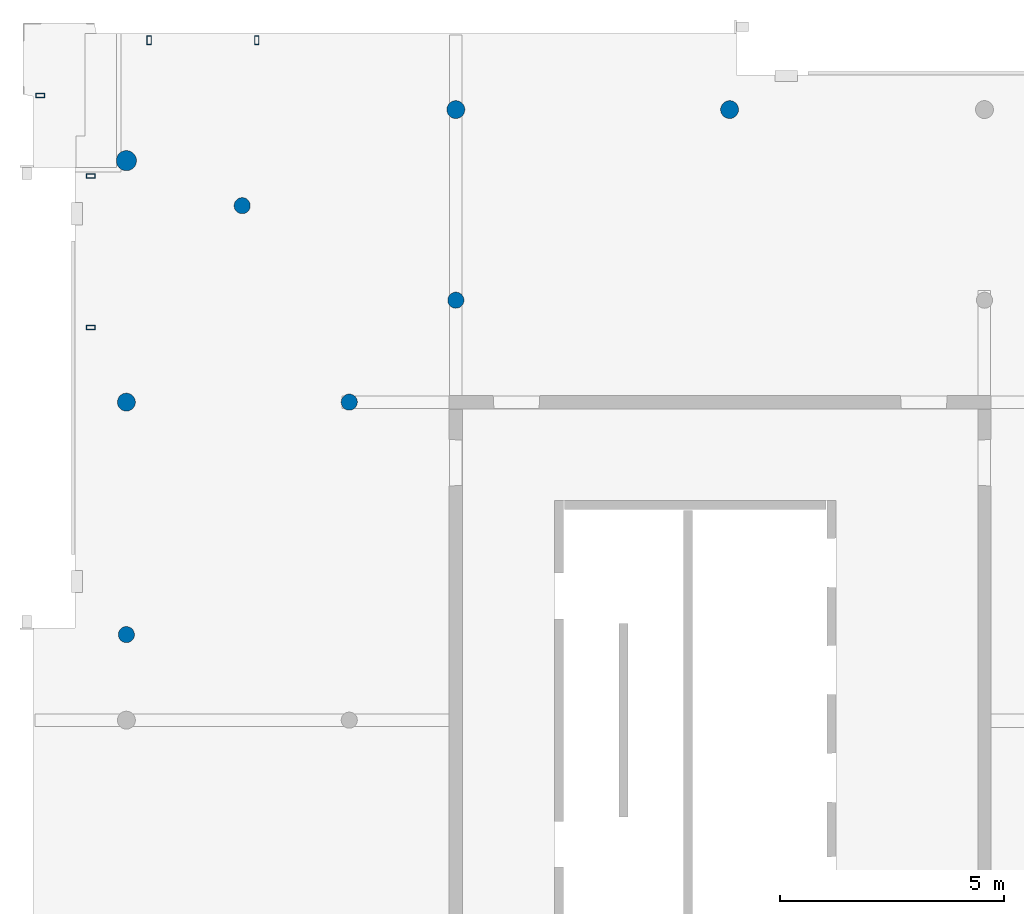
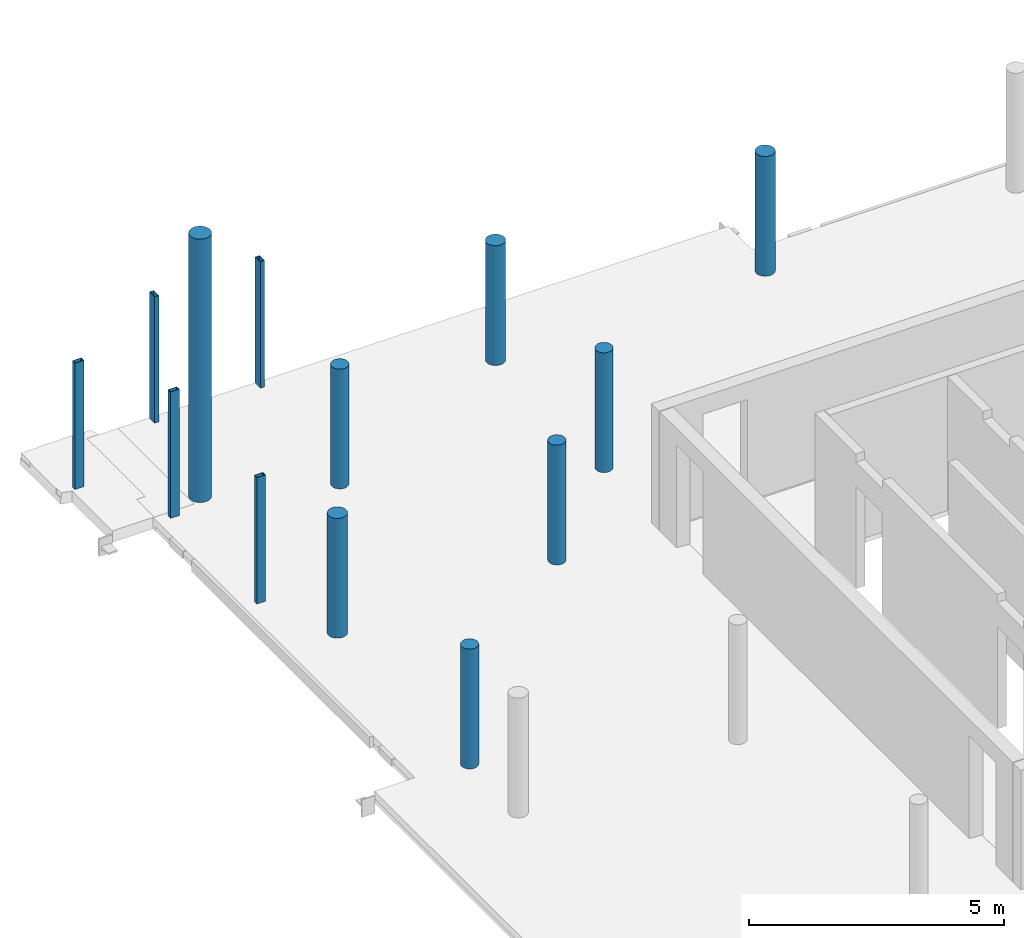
# One storey, part 3 of 7: 13 columns.
"""IFC2X3 building model written with IfcOpenShell, lengths in millimetres."""

import ifcopenshell
import ifcopenshell.guid

model = None  # the IFC model being written
_history = None  # IfcOwnerHistory: only IFC2X3 demands one
_inside = {}  # id of a spatial element -> (the spatial element, [elements in it])
_under = {}  # id of a project, library or spatial element -> (it, [spatial elements below it])
_declared = {}  # id of a project -> (the project, [libraries it declares])
_typed = {}  # id of a type object -> (the type object, [elements of that type])
_made_of = {}  # id of a material, layer set ... -> (it, [elements and type objects made of it])


def new_model(schema):
    """Start an empty IFC model of exactly this schema.

    Asked for "IFC4X3", IfcOpenShell would pick the latest addendum, in which some entities
    have other attributes; the version numbers below select the first issue.
    IFC2X3 requires an IfcOwnerHistory on every rooted entity: one is made here for all.
    """
    global model, _history
    if schema == "IFC4X3":
        model = ifcopenshell.file(schema_version=(4, 3, 0, 0))
    else:
        model = ifcopenshell.file(schema=schema)
    _inside.clear()
    _under.clear()
    _declared.clear()
    _typed.clear()
    _made_of.clear()
    _history = None
    if model.schema == "IFC2X3":
        org = make("IfcOrganization", Name="unknown")
        user = make(
            "IfcPersonAndOrganization",
            ThePerson=make("IfcPerson", FamilyName="unknown"),
            TheOrganization=org,
        )
        app = make(
            "IfcApplication",
            ApplicationDeveloper=org,
            Version="unknown",
            ApplicationFullName="unknown",
            ApplicationIdentifier="unknown",
        )
        _history = make(
            "IfcOwnerHistory",
            OwningUser=user,
            OwningApplication=app,
            ChangeAction="ADDED",
            CreationDate=0,
        )
    return model


def make(cls, **values):
    """One entity of the class cls with the attributes given. An attribute that is None is left unset."""
    return model.create_entity(
        cls, **{name: value for name, value in values.items() if value is not None}
    )


def entity(cls, *values):
    """Any entity or typed value of the class cls, its attributes in the order of the schema. None: left unset."""
    e = model.create_entity(cls)
    for i, value in enumerate(values):
        if value is not None:
            e[i] = value
    return e


def rooted(cls, **values):
    """An entity with a GlobalId (a new one), such as an element, a storey or a relation."""
    return make(cls, GlobalId=ifcopenshell.guid.new(), OwnerHistory=_history, **values)


def si_unit(unit_type, name, prefix=None):
    """IfcSIUnit, for example si_unit("LENGTHUNIT", "METRE", prefix="MILLI")."""
    return make("IfcSIUnit", UnitType=unit_type, Prefix=prefix, Name=name)


def converted_unit(unit_type, name, factor, base, dimensions=None, offset=None):
    """IfcConversionBasedUnit, such as the inch: factor (a typed value) times the base unit."""
    return make(
        "IfcConversionBasedUnit"
        if offset is None
        else "IfcConversionBasedUnitWithOffset",
        ConversionOffset=offset,
        Dimensions=None
        if dimensions is None
        else entity("IfcDimensionalExponents", *dimensions),
        UnitType=unit_type,
        Name=name,
        ConversionFactor=make(
            "IfcMeasureWithUnit", ValueComponent=factor, UnitComponent=base
        ),
    )


def derived_unit(unit_type, elements):
    """IfcDerivedUnit: a product of units, each with its exponent."""
    return make(
        "IfcDerivedUnit",
        Elements=[
            make("IfcDerivedUnitElement", Unit=unit, Exponent=power)
            for unit, power in elements
        ],
        UnitType=unit_type,
    )


def assignment(units):
    """IfcUnitAssignment: the units of a project."""
    return None if units is None else make("IfcUnitAssignment", Units=units)


def point(xyz):
    """IfcCartesianPoint."""
    return None if xyz is None else make("IfcCartesianPoint", Coordinates=xyz)


def direction(xyz):
    """IfcDirection."""
    return None if xyz is None else make("IfcDirection", DirectionRatios=xyz)


def frame(location, z_axis=None, x_axis=None):
    """IfcAxis2Placement3D, a coordinate frame: its origin and axes. An axis left out is left unset."""
    return make(
        "IfcAxis2Placement3D",
        Location=point(location),
        Axis=direction(z_axis),
        RefDirection=direction(x_axis),
    )


def frame_2d(location, x_axis=None):
    """IfcAxis2Placement2D, a coordinate frame in the plane: its origin and x axis."""
    return make(
        "IfcAxis2Placement2D", Location=point(location), RefDirection=direction(x_axis)
    )


def origin():
    """The frame at (0, 0, 0) with its axes left unset."""
    return frame((0.0, 0.0, 0.0))


def origin_2d_with_axis():
    """The frame at (0, 0) in the plane with the x axis (1, 0) written out."""
    return frame_2d((0.0, 0.0), x_axis=(1.0, 0.0))


def place(relative_to, where):
    """IfcLocalPlacement: puts the frame where relative to a parent placement (None: the world)."""
    return make(
        "IfcLocalPlacement", PlacementRelTo=relative_to, RelativePlacement=where
    )


def context(
    kind, dimensions, precision=None, world=None, true_north=None, identifier=None
):
    """IfcGeometricRepresentationContext, for example the 3D "Model" context."""
    return make(
        "IfcGeometricRepresentationContext",
        ContextIdentifier=identifier,
        ContextType=kind,
        CoordinateSpaceDimension=dimensions,
        Precision=precision,
        WorldCoordinateSystem=world,
        TrueNorth=true_north,
    )


def subcontext(parent, identifier, kind, view, scale=None):
    """IfcGeometricRepresentationSubContext, for example "Body" below "Model"."""
    return make(
        "IfcGeometricRepresentationSubContext",
        ContextIdentifier=identifier,
        ContextType=kind,
        ParentContext=parent,
        TargetScale=scale,
        TargetView=view,
    )


def project(units=None, contexts=None):
    """IfcProject with its units and contexts."""
    return rooted(
        "IfcProject",
        Name="project",
        RepresentationContexts=contexts,
        UnitsInContext=assignment(units),
    )


def spatial(cls, under=None, at=None, **own):
    """A site, building, storey or space (cls), placed at a placement, below another one or the project."""
    s = rooted(cls, ObjectPlacement=at, **own)
    if under is not None:
        _under.setdefault(under.id(), (under, []))[1].append(s)
    return s


def polyline(points):
    """IfcPolyline through the points."""
    return make("IfcPolyline", Points=[point(p) for p in points])


def circle_curve(where, radius):
    """IfcCircle in the frame where."""
    return make("IfcCircle", Position=where, Radius=radius)


def parameter(value):
    """IfcParameterValue: where a trimmed curve begins or ends, as a parameter of its basis curve."""
    return model.create_entity("IfcParameterValue", value)


def trimmed(basis, trim1, trim2, sense, master):
    """IfcTrimmedCurve: the piece of a basis curve between two trims."""
    return make(
        "IfcTrimmedCurve",
        BasisCurve=basis,
        Trim1=trim1,
        Trim2=trim2,
        SenseAgreement=sense,
        MasterRepresentation=master,
    )


def segment(curve, same_sense, transition):
    """IfcCompositeCurveSegment."""
    return make(
        "IfcCompositeCurveSegment",
        Transition=transition,
        SameSense=same_sense,
        ParentCurve=curve,
    )


def composite_curve(segments, self_intersect=None):
    """IfcCompositeCurve: segments joined end to end."""
    return make("IfcCompositeCurve", Segments=segments, SelfIntersect=self_intersect)


def profile(cls, at=None, kind="AREA", **sizes):
    """A parametric profile (cls). Its sizes go by their IFC names, for example OverallWidth=200.0."""
    return make(cls, ProfileType=kind, Position=at, **sizes)


def circle(**sizes):
    """IfcCircleProfileDef."""
    return profile("IfcCircleProfileDef", **sizes)


def outline(outer, holes=None, kind="AREA"):
    """IfcArbitraryClosedProfileDef: a profile drawn as a closed curve; with holes, ...WithVoids."""
    if holes is None:
        return make("IfcArbitraryClosedProfileDef", ProfileType=kind, OuterCurve=outer)
    return make(
        "IfcArbitraryProfileDefWithVoids",
        ProfileType=kind,
        OuterCurve=outer,
        InnerCurves=holes,
    )


def extrude(swept, where, along, depth):
    """IfcExtrudedAreaSolid: the profile swept, set in the frame where, extruded along a direction by depth."""
    return make(
        "IfcExtrudedAreaSolid",
        SweptArea=swept,
        Position=where,
        ExtrudedDirection=direction(along),
        Depth=depth,
    )


def shape(context_of_items, identifier, shape_type, items):
    """IfcShapeRepresentation: the items that make up one representation, for example the "Body"."""
    return make(
        "IfcShapeRepresentation",
        ContextOfItems=context_of_items,
        RepresentationIdentifier=identifier,
        RepresentationType=shape_type,
        Items=items,
    )


def source(mapping_origin, context_of_items, identifier, shape_type, items):
    """IfcRepresentationMap: a shape defined once, which mapped items show again and again."""
    return make(
        "IfcRepresentationMap",
        MappingOrigin=mapping_origin,
        MappedRepresentation=shape(context_of_items, identifier, shape_type, items),
    )


def transform(
    local_origin,
    x_axis=None,
    y_axis=None,
    z_axis=None,
    scale=None,
    scale2=None,
    scale3=None,
    uniform=True,
):
    """IfcCartesianTransformationOperator3D, or its non-uniform kind. x_axis, y_axis, z_axis: its Axis1, 2, 3."""
    if uniform:
        return make(
            "IfcCartesianTransformationOperator3D",
            Axis1=direction(x_axis),
            Axis2=direction(y_axis),
            LocalOrigin=point(local_origin),
            Scale=scale,
            Axis3=direction(z_axis),
        )
    return make(
        "IfcCartesianTransformationOperator3DnonUniform",
        Axis1=direction(x_axis),
        Axis2=direction(y_axis),
        LocalOrigin=point(local_origin),
        Scale=scale,
        Axis3=direction(z_axis),
        Scale2=scale2,
        Scale3=scale3,
    )


def mapped(mapping_source, mapping_target):
    """IfcMappedItem: shows the shape of a source again, moved by a transform."""
    return make(
        "IfcMappedItem", MappingSource=mapping_source, MappingTarget=mapping_target
    )


def material(Name=None, Category=None):
    """IfcMaterial."""
    return make("IfcMaterial", Name=Name, Category=Category)


def made_of(thing, what):
    """Note that an element or type object is made of a material, layer set ...; save() writes the relation."""
    if what is not None:
        _made_of.setdefault(what.id(), (what, []))[1].append(thing)
    return thing


def type_object(cls, material=None, **own):
    """A type object (cls), such as IfcWallType, which elements share."""
    return made_of(rooted(cls, **own), material)


def type_shapes(of_type, sources):
    """Give a type object the sources (RepresentationMaps) that its elements show as mapped items."""
    of_type.RepresentationMaps = sources


def element(
    cls,
    number,
    at=None,
    inside=None,
    cuts=None,
    type_object=None,
    material=None,
    context=None,
    identifier="Body",
    shape_type=None,
    held_by="IfcProductDefinitionShape",
    body=None,
    shapes=None,
    **own,
):
    """One element of the class cls, such as IfcWall. Its Tag is "e" and its number.

    at: its placement. inside: the storey or other place that contains it. cuts: it is an
    opening in that element (IfcRelVoidsElement). A single representation is given by context,
    identifier, shape_type and body (its items); several are given by shapes. held_by: the class
    of the entity that holds the representations. save() writes the other relations.
    """
    e = rooted(cls, Tag="e%d" % number, ObjectPlacement=at, **own)
    if body is not None:
        shapes = [shape(context, identifier, shape_type, body)]
    if shapes is not None:
        e.Representation = make(held_by, Representations=shapes)
    if inside is not None:
        _inside.setdefault(inside.id(), (inside, []))[1].append(e)
    if cuts is not None:
        rooted(
            "IfcRelVoidsElement", RelatingBuildingElement=cuts, RelatedOpeningElement=e
        )
    if type_object is not None:
        _typed.setdefault(type_object.id(), (type_object, []))[1].append(e)
    return made_of(e, material)


def aggregate(whole, parts):
    """IfcRelAggregates: a whole, such as a stair, and the parts it consists of."""
    return rooted("IfcRelAggregates", RelatingObject=whole, RelatedObjects=parts)


def save(model, path):
    """Write the relations noted so far, then the file.

    IfcRelAggregates (storeys below a building ...), IfcRelContainedInSpatialStructure (elements
    in a storey), IfcRelDefinesByType, IfcRelAssociatesMaterial and IfcRelDeclares: one each for
    every whole, place, type object, material and project.
    """
    for whole, parts in _under.values():
        aggregate(whole, parts)
    for where, things in _inside.values():
        rooted(
            "IfcRelContainedInSpatialStructure",
            RelatedElements=things,
            RelatingStructure=where,
        )
    for kind, things in _typed.values():
        rooted("IfcRelDefinesByType", RelatedObjects=things, RelatingType=kind)
    for what, things in _made_of.values():
        rooted("IfcRelAssociatesMaterial", RelatedObjects=things, RelatingMaterial=what)
    for by, libraries in _declared.values():
        rooted("IfcRelDeclares", RelatingContext=by, RelatedDefinitions=libraries)
    model.write(path)


model = new_model("IFC2X3")

# Units and contexts
model_context = context("Model", 3, precision=0.01, world=origin(), true_north=direction((6.12303176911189e-17, 1.0)))
body_context = subcontext(model_context, "Body", "Model", "MODEL_VIEW")
ifc_project = project(units=[si_unit("LENGTHUNIT", "METRE", prefix="MILLI"), si_unit("AREAUNIT", "SQUARE_METRE"), si_unit("VOLUMEUNIT", "CUBIC_METRE"), converted_unit("PLANEANGLEUNIT", "DEGREE", entity("IfcRatioMeasure", 0.0174532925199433), si_unit("PLANEANGLEUNIT", "RADIAN"), dimensions=[0, 0, 0, 0, 0, 0, 0]), si_unit("MASSUNIT", "GRAM", prefix="KILO"), derived_unit("MASSDENSITYUNIT", [(si_unit("MASSUNIT", "GRAM", prefix="KILO"), 1), (si_unit("LENGTHUNIT", "METRE"), -3)]), si_unit("TIMEUNIT", "SECOND"), si_unit("FREQUENCYUNIT", "HERTZ"), si_unit("THERMODYNAMICTEMPERATUREUNIT", "DEGREE_CELSIUS"), derived_unit("THERMALTRANSMITTANCEUNIT", [(si_unit("MASSUNIT", "GRAM", prefix="KILO"), 1), (si_unit("THERMODYNAMICTEMPERATUREUNIT", "KELVIN"), -1), (si_unit("TIMEUNIT", "SECOND"), -3)]), derived_unit("VOLUMETRICFLOWRATEUNIT", [(si_unit("LENGTHUNIT", "METRE"), 3), (si_unit("TIMEUNIT", "SECOND"), -1)]), si_unit("ELECTRICCURRENTUNIT", "AMPERE"), si_unit("ELECTRICVOLTAGEUNIT", "VOLT"), si_unit("POWERUNIT", "WATT"), si_unit("FORCEUNIT", "NEWTON", prefix="KILO"), si_unit("ILLUMINANCEUNIT", "LUX"), si_unit("LUMINOUSFLUXUNIT", "LUMEN"), si_unit("LUMINOUSINTENSITYUNIT", "CANDELA"), derived_unit("USERDEFINED", [(si_unit("MASSUNIT", "GRAM", prefix="KILO"), -1), (si_unit("LENGTHUNIT", "METRE"), -2), (si_unit("TIMEUNIT", "SECOND"), 3), (si_unit("LUMINOUSFLUXUNIT", "LUMEN"), 1)]), derived_unit("LINEARVELOCITYUNIT", [(si_unit("LENGTHUNIT", "METRE"), 1), (si_unit("TIMEUNIT", "SECOND"), -1)]), si_unit("PRESSUREUNIT", "PASCAL"), derived_unit("USERDEFINED", [(si_unit("LENGTHUNIT", "METRE"), -2), (si_unit("MASSUNIT", "GRAM", prefix="KILO"), 1), (si_unit("TIMEUNIT", "SECOND"), -2)])], contexts=[model_context])

# Site, building, storey
site_placement = place(None, origin())
site = spatial("IfcSite", under=ifc_project, at=site_placement, Name="Default", CompositionType="ELEMENT")
building_placement = place(site_placement, origin())
building = spatial("IfcBuilding", under=site, at=building_placement, Name="niet gebruiken", CompositionType="ELEMENT")
storey_placement = place(building_placement, frame((0.0, 0.0, 165060.0)))
storey = spatial("IfcBuildingStorey", under=building, at=storey_placement, Name="53 drieënvijftigste verdieping", CompositionType="ELEMENT", Elevation=165060.0)

# Columns
ifc_material_1 = material(Name="NLRS_f2_beton prefab")
column_type_1 = type_object("IfcColumnType", Name="ø400", PredefinedType="COLUMN", material=ifc_material_1)
shared_shape_1 = source(origin(), body_context, "Body", "SweptSolid", [
    extrude(circle(Radius=199.999999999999, at=origin_2d_with_axis()), frame((128495.0, 24600.0, 164990.0), z_axis=(0.0, 0.0, 1.0), x_axis=(0.0, -1.0, 0.0)), (0.0, 0.0, 1.0), 2869.99999999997),
])
type_shapes(column_type_1, [shared_shape_1])
column_1_placement = place(storey_placement, frame((0.0, 0.0, -165060.0)))
element("IfcColumn", 1, at=column_1_placement, inside=storey, type_object=column_type_1, material=ifc_material_1, Name="NLRS_28. kolom rond_gen:ø400", ObjectType="ø400", context=body_context, shape_type="MappedRepresentation", body=[
    mapped(shared_shape_1, transform((0.0, 0.0, 0.0), scale=1.0)),
])
column_type_2 = type_object("IfcColumnType", Name="ø450", PredefinedType="COLUMN", material=ifc_material_1)
shared_shape_2 = source(origin(), body_context, "Body", "SweptSolid", [
    extrude(circle(Radius=225.0, at=origin_2d_with_axis()), frame((128495.0, 29990.0, 164990.0), z_axis=(0.0, 0.0, 1.0), x_axis=(0.0, -1.0, 0.0)), (0.0, 0.0, 1.0), 6309.99999999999),
])
type_shapes(column_type_2, [shared_shape_2])
column_2_placement = place(storey_placement, frame((0.0, 0.0, -165060.0)))
element("IfcColumn", 2, at=column_2_placement, inside=storey, type_object=column_type_2, material=ifc_material_1, Name="NLRS_28. kolom rond_gen:ø450", ObjectType="ø450", context=body_context, shape_type="MappedRepresentation", body=[
    mapped(shared_shape_2, transform((0.0, 0.0, 0.0), scale=1.0)),
])
column_type_3 = type_object("IfcColumnType", Name="ø360", PredefinedType="COLUMN", material=ifc_material_1)
shared_shape_3 = source(origin(), body_context, "Body", "SweptSolid", [
    extrude(circle(Radius=179.999999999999, at=origin_2d_with_axis()), frame((131080.0, 28985.0, 164990.0), z_axis=(0.0, 0.0, 1.0), x_axis=(0.0, -1.0, 0.0)), (0.0, 0.0, 1.0), 2869.99999999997),
])
type_shapes(column_type_3, [shared_shape_3])
column_3_placement = place(storey_placement, frame((0.0, 0.0, -165060.0)))
element("IfcColumn", 3, at=column_3_placement, inside=storey, type_object=column_type_3, material=ifc_material_1, Name="NLRS_28. kolom rond_gen:ø360", ObjectType="ø360", context=body_context, shape_type="MappedRepresentation", body=[
    mapped(shared_shape_3, transform((0.0, 0.0, 0.0), scale=1.0)),
])
column_type_4 = type_object("IfcColumnType", Name="ø400", PredefinedType="COLUMN", material=ifc_material_1)
shared_shape_4 = source(origin(), body_context, "Body", "SweptSolid", [
    extrude(circle(Radius=200.000000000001, at=origin_2d_with_axis()), frame((135850.0, 31130.0, 164990.0), z_axis=(0.0, 0.0, 1.0), x_axis=(0.0, -1.0, 0.0)), (0.0, 0.0, 1.0), 2869.99999999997),
])
type_shapes(column_type_4, [shared_shape_4])
column_4_placement = place(storey_placement, frame((0.0, 0.0, -165060.0)))
element("IfcColumn", 4, at=column_4_placement, inside=storey, type_object=column_type_4, material=ifc_material_1, Name="NLRS_28. kolom rond_gen:ø400", ObjectType="ø400", context=body_context, shape_type="MappedRepresentation", body=[
    mapped(shared_shape_4, transform((0.0, 0.0, 0.0), scale=1.0)),
])
column_type_5 = type_object("IfcColumnType", Name="ø400", PredefinedType="COLUMN", material=ifc_material_1)
shared_shape_5 = source(origin(), body_context, "Body", "SweptSolid", [
    extrude(circle(Radius=199.999999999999, at=origin_2d_with_axis()), frame((141960.0, 31130.0, 164990.0), z_axis=(0.0, 0.0, 1.0), x_axis=(0.0, -1.0, 0.0)), (0.0, 0.0, 1.0), 2869.99999999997),
])
type_shapes(column_type_5, [shared_shape_5])
column_5_placement = place(storey_placement, frame((0.0, 0.0, -165060.0)))
element("IfcColumn", 5, at=column_5_placement, inside=storey, type_object=column_type_5, material=ifc_material_1, Name="NLRS_28. kolom rond_gen:ø400", ObjectType="ø400", context=body_context, shape_type="MappedRepresentation", body=[
    mapped(shared_shape_5, transform((0.0, 0.0, 0.0), scale=1.0)),
])
column_type_6 = type_object("IfcColumnType", Name="ø360", PredefinedType="COLUMN", material=ifc_material_1)
shared_shape_6 = source(origin(), body_context, "Body", "SweptSolid", [
    extrude(circle(Radius=179.999999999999, at=origin_2d_with_axis()), frame((135850.0, 26875.0, 164990.0), z_axis=(0.0, 0.0, 1.0), x_axis=(0.0, -1.0, 0.0)), (0.0, 0.0, 1.0), 2869.99999999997),
])
type_shapes(column_type_6, [shared_shape_6])
column_6_placement = place(storey_placement, frame((0.0, 0.0, -165060.0)))
element("IfcColumn", 6, at=column_6_placement, inside=storey, type_object=column_type_6, material=ifc_material_1, Name="NLRS_28. kolom rond_gen:ø360", ObjectType="ø360", context=body_context, shape_type="MappedRepresentation", body=[
    mapped(shared_shape_6, transform((0.0, 0.0, 0.0), scale=1.0)),
])
column_type_7 = type_object("IfcColumnType", Name="ø360", PredefinedType="COLUMN", material=ifc_material_1)
shared_shape_7 = source(origin(), body_context, "Body", "SweptSolid", [
    extrude(circle(Radius=179.999999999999, at=origin_2d_with_axis()), frame((133470.0, 24600.0, 164990.0), z_axis=(0.0, 0.0, 1.0), x_axis=(0.0, -1.0, 0.0)), (0.0, 0.0, 1.0), 2869.99999999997),
])
type_shapes(column_type_7, [shared_shape_7])
column_7_placement = place(storey_placement, frame((0.0, 0.0, -165060.0)))
element("IfcColumn", 7, at=column_7_placement, inside=storey, type_object=column_type_7, material=ifc_material_1, Name="NLRS_28. kolom rond_gen:ø360", ObjectType="ø360", context=body_context, shape_type="MappedRepresentation", body=[
    mapped(shared_shape_7, transform((0.0, 0.0, 0.0), scale=1.0)),
])
column_type_8 = type_object("IfcColumnType", Name="ø360", PredefinedType="COLUMN", material=ifc_material_1)
shared_shape_8 = source(origin(), body_context, "Body", "SweptSolid", [
    extrude(circle(Radius=180.0, at=origin_2d_with_axis()), frame((128495.0, 19410.0, 164990.0), z_axis=(0.0, 0.0, 1.0), x_axis=(0.0, -1.0, 0.0)), (0.0, 0.0, 1.0), 2869.99999999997),
])
type_shapes(column_type_8, [shared_shape_8])
column_8_placement = place(storey_placement, frame((0.0, 0.0, -165060.0)))
element("IfcColumn", 8, at=column_8_placement, inside=storey, type_object=column_type_8, material=ifc_material_1, Name="NLRS_28. kolom rond_gen:ø360", ObjectType="ø360", context=body_context, shape_type="MappedRepresentation", body=[
    mapped(shared_shape_8, transform((0.0, 0.0, 0.0), scale=1.0)),
])
ifc_material_2 = material(Name="NLRS_h2_staal")
column_type_9 = type_object("IfcColumnType", Name="kolom buisprofiel rechthoekig RHSH_200x100x10", PredefinedType="COLUMN", material=ifc_material_2)
shared_shape_9 = source(origin(), body_context, "Body", "SweptSolid", [
    extrude(outline(polyline([(-100.0, -50.0), (100.0, -50.0), (100.0, 50.0), (-100.0, 50.0), (-100.0, -50.0)]), holes=[composite_curve([segment(trimmed(circle_curve(frame_2d((-80.0, -30.0), x_axis=(0.0, 1.0)), 10.0), [parameter(90.0000000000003)], [parameter(180.0)], True, "PARAMETER"), False, "CONTINUOUS"), segment(polyline([(-90.0, -30.0), (-90.0, 30.0)]), True, "CONTINUOUS"), segment(trimmed(circle_curve(frame_2d((-80.0, 30.0), x_axis=(0.0, 1.0)), 10.0), [parameter(360.0)], [parameter(89.9999999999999)], True, "PARAMETER"), False, "CONTINUOUS"), segment(polyline([(-80.0, 40.0), (80.0, 40.0)]), True, "CONTINUOUS"), segment(trimmed(circle_curve(frame_2d((80.0, 30.0), x_axis=(0.0, 1.0)), 10.0), [parameter(270.0)], [parameter(360.0)], True, "PARAMETER"), False, "CONTINUOUS"), segment(polyline([(90.0, 30.0), (90.0, -30.0)]), True, "CONTINUOUS"), segment(trimmed(circle_curve(frame_2d((80.0, -30.0), x_axis=(0.0, 1.0)), 10.0), [parameter(180.0)], [parameter(270.0)], True, "PARAMETER"), False, "CONTINUOUS"), segment(polyline([(80.0, -40.0), (-80.0, -40.0)]), True, "CONTINUOUS")], self_intersect=False)]), frame((126570.0, 31445.0, 165000.0), z_axis=(0.0, 0.0, 1.0), x_axis=(-1.0, 0.0, 0.0)), (0.0, 0.0, 1.0), 3029.69999999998),
])
type_shapes(column_type_9, [shared_shape_9])
column_9_placement = place(storey_placement, frame((0.0, 0.0, -165060.0)))
element("IfcColumn", 9, at=column_9_placement, inside=storey, type_object=column_type_9, material=ifc_material_2, Name="NLRS_28.11_SCO_TLB_stalen kolom buisprofiel rechthoekig_gen:kolom buisprofiel rechthoekig RHSH_200x100x10", ObjectType="kolom buisprofiel rechthoekig RHSH_200x100x10", context=body_context, shape_type="MappedRepresentation", body=[
    mapped(shared_shape_9, transform((0.0, 0.0, 0.0), scale=1.0)),
])
column_type_10 = type_object("IfcColumnType", Name="kolom buisprofiel rechthoekig RHSH_200x100x10", PredefinedType="COLUMN", material=ifc_material_2)
shared_shape_10 = source(origin(), body_context, "Body", "SweptSolid", [
    extrude(outline(polyline([(-100.0, -50.0), (100.0, -50.0), (100.0, 50.0), (-100.0, 50.0), (-100.0, -50.0)]), holes=[composite_curve([segment(trimmed(circle_curve(frame_2d((-80.0, -30.0), x_axis=(0.0, 1.0)), 10.0), [parameter(90.0000000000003)], [parameter(180.0)], True, "PARAMETER"), False, "CONTINUOUS"), segment(polyline([(-90.0, -30.0), (-90.0, 30.0)]), True, "CONTINUOUS"), segment(trimmed(circle_curve(frame_2d((-80.0, 30.0), x_axis=(0.0, 1.0)), 10.0), [parameter(360.0)], [parameter(89.9999999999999)], True, "PARAMETER"), False, "CONTINUOUS"), segment(polyline([(-80.0, 40.0), (80.0, 40.0)]), True, "CONTINUOUS"), segment(trimmed(circle_curve(frame_2d((80.0, 30.0), x_axis=(0.0, 1.0)), 10.0), [parameter(270.0)], [parameter(360.0)], True, "PARAMETER"), False, "CONTINUOUS"), segment(polyline([(90.0, 30.0), (90.0, -30.0)]), True, "CONTINUOUS"), segment(trimmed(circle_curve(frame_2d((80.0, -30.0), x_axis=(0.0, 1.0)), 10.0), [parameter(180.0)], [parameter(270.0)], True, "PARAMETER"), False, "CONTINUOUS"), segment(polyline([(80.0, -40.0), (-80.0, -40.0)]), True, "CONTINUOUS")], self_intersect=False)]), frame((129005.0, 32680.0, 165000.0), z_axis=(0.0, 0.0, 1.0), x_axis=(0.0, 1.0, 0.0)), (0.0, 0.0, 1.0), 3029.69999999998),
])
type_shapes(column_type_10, [shared_shape_10])
column_10_placement = place(storey_placement, frame((0.0, 0.0, -165060.0)))
element("IfcColumn", 10, at=column_10_placement, inside=storey, type_object=column_type_10, material=ifc_material_2, Name="NLRS_28.11_SCO_TLB_stalen kolom buisprofiel rechthoekig_gen:kolom buisprofiel rechthoekig RHSH_200x100x10", ObjectType="kolom buisprofiel rechthoekig RHSH_200x100x10", context=body_context, shape_type="MappedRepresentation", body=[
    mapped(shared_shape_10, transform((0.0, 0.0, 0.0), scale=1.0)),
])
column_type_11 = type_object("IfcColumnType", Name="kolom buisprofiel rechthoekig RHSH_200x100x10", PredefinedType="COLUMN", material=ifc_material_2)
shared_shape_11 = source(origin(), body_context, "Body", "SweptSolid", [
    extrude(outline(polyline([(-100.0, -50.0), (100.0, -50.0), (100.0, 50.0), (-100.0, 50.0), (-100.0, -50.0)]), holes=[composite_curve([segment(trimmed(circle_curve(frame_2d((-80.0, -30.0), x_axis=(0.0, 1.0)), 10.0), [parameter(90.0000000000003)], [parameter(180.0)], True, "PARAMETER"), False, "CONTINUOUS"), segment(polyline([(-90.0, -30.0), (-90.0, 30.0)]), True, "CONTINUOUS"), segment(trimmed(circle_curve(frame_2d((-80.0, 30.0), x_axis=(0.0, 1.0)), 10.0), [parameter(360.0)], [parameter(89.9999999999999)], True, "PARAMETER"), False, "CONTINUOUS"), segment(polyline([(-80.0, 40.0), (80.0, 40.0)]), True, "CONTINUOUS"), segment(trimmed(circle_curve(frame_2d((80.0, 30.0), x_axis=(0.0, 1.0)), 10.0), [parameter(270.0)], [parameter(360.0)], True, "PARAMETER"), False, "CONTINUOUS"), segment(polyline([(90.0, 30.0), (90.0, -30.0)]), True, "CONTINUOUS"), segment(trimmed(circle_curve(frame_2d((80.0, -30.0), x_axis=(0.0, 1.0)), 10.0), [parameter(180.0)], [parameter(270.0)], True, "PARAMETER"), False, "CONTINUOUS"), segment(polyline([(80.0, -40.0), (-80.0, -40.0)]), True, "CONTINUOUS")], self_intersect=False)]), frame((131405.0, 32680.0, 165000.0), z_axis=(0.0, 0.0, 1.0), x_axis=(0.0, 1.0, 0.0)), (0.0, 0.0, 1.0), 3029.69999999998),
])
type_shapes(column_type_11, [shared_shape_11])
column_11_placement = place(storey_placement, frame((0.0, 0.0, -165060.0)))
element("IfcColumn", 11, at=column_11_placement, inside=storey, type_object=column_type_11, material=ifc_material_2, Name="NLRS_28.11_SCO_TLB_stalen kolom buisprofiel rechthoekig_gen:kolom buisprofiel rechthoekig RHSH_200x100x10", ObjectType="kolom buisprofiel rechthoekig RHSH_200x100x10", context=body_context, shape_type="MappedRepresentation", body=[
    mapped(shared_shape_11, transform((0.0, 0.0, 0.0), scale=1.0)),
])
column_type_12 = type_object("IfcColumnType", Name="kolom buisprofiel rechthoekig RHSH_200x100x10", PredefinedType="COLUMN", material=ifc_material_2)
shared_shape_12 = source(origin(), body_context, "Body", "SweptSolid", [
    extrude(outline(polyline([(-100.0, -50.0), (100.0, -50.0), (100.0, 50.0), (-100.0, 50.0), (-100.0, -50.0)]), holes=[composite_curve([segment(trimmed(circle_curve(frame_2d((-80.0, -30.0), x_axis=(0.0, 1.0)), 10.0), [parameter(90.0000000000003)], [parameter(180.0)], True, "PARAMETER"), False, "CONTINUOUS"), segment(polyline([(-90.0, -30.0), (-90.0, 30.0)]), True, "CONTINUOUS"), segment(trimmed(circle_curve(frame_2d((-80.0, 30.0), x_axis=(0.0, 1.0)), 10.0), [parameter(360.0)], [parameter(89.9999999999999)], True, "PARAMETER"), False, "CONTINUOUS"), segment(polyline([(-80.0, 40.0), (80.0, 40.0)]), True, "CONTINUOUS"), segment(trimmed(circle_curve(frame_2d((80.0, 30.0), x_axis=(0.0, 1.0)), 10.0), [parameter(270.0)], [parameter(360.0)], True, "PARAMETER"), False, "CONTINUOUS"), segment(polyline([(90.0, 30.0), (90.0, -30.0)]), True, "CONTINUOUS"), segment(trimmed(circle_curve(frame_2d((80.0, -30.0), x_axis=(0.0, 1.0)), 10.0), [parameter(180.0)], [parameter(270.0)], True, "PARAMETER"), False, "CONTINUOUS"), segment(polyline([(80.0, -40.0), (-80.0, -40.0)]), True, "CONTINUOUS")], self_intersect=False)]), frame((127701.0, 26265.0, 165000.0), z_axis=(0.0, 0.0, 1.0), x_axis=(-1.0, 0.0, 0.0)), (0.0, 0.0, 1.0), 3029.69999999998),
])
type_shapes(column_type_12, [shared_shape_12])
column_12_placement = place(storey_placement, frame((0.0, 0.0, -165060.0)))
element("IfcColumn", 12, at=column_12_placement, inside=storey, type_object=column_type_12, material=ifc_material_2, Name="NLRS_28.11_SCO_TLB_stalen kolom buisprofiel rechthoekig_gen:kolom buisprofiel rechthoekig RHSH_200x100x10", ObjectType="kolom buisprofiel rechthoekig RHSH_200x100x10", context=body_context, shape_type="MappedRepresentation", body=[
    mapped(shared_shape_12, transform((0.0, 0.0, 0.0), scale=1.0)),
])
column_type_13 = type_object("IfcColumnType", Name="kolom buisprofiel rechthoekig RHSH_200x100x10", PredefinedType="COLUMN", material=ifc_material_2)
shared_shape_13 = source(origin(), body_context, "Body", "SweptSolid", [
    extrude(outline(polyline([(-100.0, -50.0), (100.0, -50.0), (100.0, 50.0), (-100.0, 50.0), (-100.0, -50.0)]), holes=[composite_curve([segment(trimmed(circle_curve(frame_2d((-80.0, -30.0), x_axis=(0.0, 1.0)), 10.0), [parameter(90.0000000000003)], [parameter(180.0)], True, "PARAMETER"), False, "CONTINUOUS"), segment(polyline([(-90.0, -30.0), (-90.0, 30.0)]), True, "CONTINUOUS"), segment(trimmed(circle_curve(frame_2d((-80.0, 30.0), x_axis=(0.0, 1.0)), 10.0), [parameter(360.0)], [parameter(89.9999999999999)], True, "PARAMETER"), False, "CONTINUOUS"), segment(polyline([(-80.0, 40.0), (80.0, 40.0)]), True, "CONTINUOUS"), segment(trimmed(circle_curve(frame_2d((80.0, 30.0), x_axis=(0.0, 1.0)), 10.0), [parameter(270.0)], [parameter(360.0)], True, "PARAMETER"), False, "CONTINUOUS"), segment(polyline([(90.0, 30.0), (90.0, -30.0)]), True, "CONTINUOUS"), segment(trimmed(circle_curve(frame_2d((80.0, -30.0), x_axis=(0.0, 1.0)), 10.0), [parameter(180.0)], [parameter(270.0)], True, "PARAMETER"), False, "CONTINUOUS"), segment(polyline([(80.0, -40.0), (-80.0, -40.0)]), True, "CONTINUOUS")], self_intersect=False)]), frame((127701.0, 29652.0, 165000.0), z_axis=(0.0, 0.0, 1.0), x_axis=(-1.0, 0.0, 0.0)), (0.0, 0.0, 1.0), 3029.69999999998),
])
type_shapes(column_type_13, [shared_shape_13])
column_13_placement = place(storey_placement, frame((0.0, 0.0, -165060.0)))
element("IfcColumn", 13, at=column_13_placement, inside=storey, type_object=column_type_13, material=ifc_material_2, Name="NLRS_28.11_SCO_TLB_stalen kolom buisprofiel rechthoekig_gen:kolom buisprofiel rechthoekig RHSH_200x100x10", ObjectType="kolom buisprofiel rechthoekig RHSH_200x100x10", context=body_context, shape_type="MappedRepresentation", body=[
    mapped(shared_shape_13, transform((0.0, 0.0, 0.0), scale=1.0)),
])

save(model, "model.ifc")
